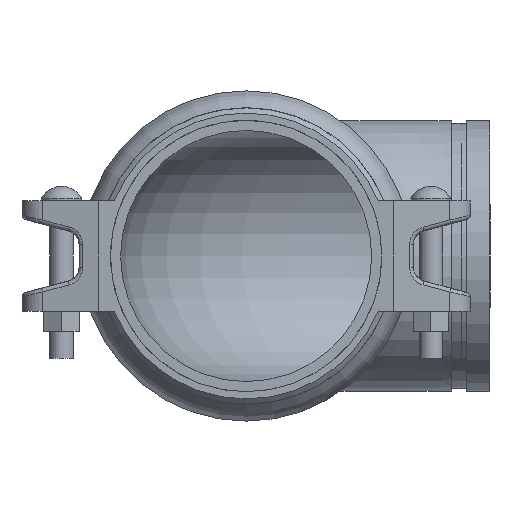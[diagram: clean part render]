
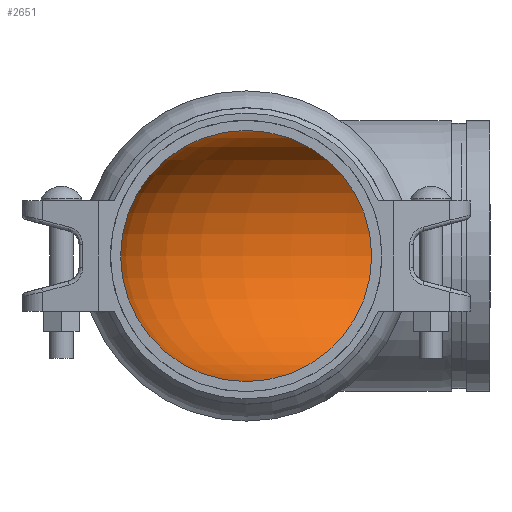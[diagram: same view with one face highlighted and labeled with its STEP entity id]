
A CAD part, left-side view. The second image highlights one B-rep face of the part: STEP entity #2651.
In plain terms, the highlighted toroidal (fillet/blend) face has major radius 173.838 mm and minor radius 101.359 mm.
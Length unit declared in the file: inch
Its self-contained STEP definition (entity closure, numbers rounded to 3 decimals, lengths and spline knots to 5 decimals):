
#102=TOROIDAL_SURFACE('',#2912,6.844,3.9905);
#570=FACE_OUTER_BOUND('',#723,.T.);
#723=EDGE_LOOP('',(#1695,#1696,#1697,#1698,#1699,#1700));
#897=CIRCLE('',#2909,3.9905);
#898=CIRCLE('',#2910,3.9905);
#900=CIRCLE('',#2913,3.9905);
#901=CIRCLE('',#2914,2.8535);
#902=CIRCLE('',#2915,3.9905);
#1039=VERTEX_POINT('',#4316);
#1040=VERTEX_POINT('',#4317);
#1042=VERTEX_POINT('',#4324);
#1043=VERTEX_POINT('',#4325);
#1297=EDGE_CURVE('',#1039,#1040,#897,.T.);
#1298=EDGE_CURVE('',#1040,#1039,#898,.T.);
#1301=EDGE_CURVE('',#1042,#1043,#900,.T.);
#1302=EDGE_CURVE('',#1043,#1040,#901,.T.);
#1303=EDGE_CURVE('',#1043,#1042,#902,.T.);
#1695=ORIENTED_EDGE('',*,*,#1301,.T.);
#1696=ORIENTED_EDGE('',*,*,#1302,.T.);
#1697=ORIENTED_EDGE('',*,*,#1297,.F.);
#1698=ORIENTED_EDGE('',*,*,#1298,.F.);
#1699=ORIENTED_EDGE('',*,*,#1302,.F.);
#1700=ORIENTED_EDGE('',*,*,#1303,.T.);
#2651=ADVANCED_FACE('',(#570),#102,.F.);
#2909=AXIS2_PLACEMENT_3D('',#4318,#3248,#3249);
#2910=AXIS2_PLACEMENT_3D('',#4319,#3250,#3251);
#2912=AXIS2_PLACEMENT_3D('',#4323,#3255,#3256);
#2913=AXIS2_PLACEMENT_3D('',#4326,#3257,#3258);
#2914=AXIS2_PLACEMENT_3D('',#4327,#3259,#3260);
#2915=AXIS2_PLACEMENT_3D('',#4328,#3261,#3262);
#3248=DIRECTION('center_axis',(0.,1.,0.));
#3249=DIRECTION('ref_axis',(1.,0.,0.));
#3250=DIRECTION('center_axis',(0.,1.,0.));
#3251=DIRECTION('ref_axis',(1.,0.,0.));
#3255=DIRECTION('center_axis',(0.,0.,1.));
#3256=DIRECTION('ref_axis',(1.,0.,0.));
#3257=DIRECTION('center_axis',(1.,0.,0.));
#3258=DIRECTION('ref_axis',(0.,-1.,0.));
#3259=DIRECTION('center_axis',(0.,0.,1.));
#3260=DIRECTION('ref_axis',(1.,0.,0.));
#3261=DIRECTION('center_axis',(1.,0.,0.));
#3262=DIRECTION('ref_axis',(0.,-1.,0.));
#4316=CARTESIAN_POINT('',(-3.9905,-6.844,0.));
#4317=CARTESIAN_POINT('',(3.9905,-6.844,0.));
#4318=CARTESIAN_POINT('Origin',(0.,-6.844,
0.));
#4319=CARTESIAN_POINT('Origin',(0.,-6.844,
0.));
#4323=CARTESIAN_POINT('Origin',(6.844,-6.844,0.));
#4324=CARTESIAN_POINT('',(6.844,3.9905,0.));
#4325=CARTESIAN_POINT('',(6.844,-3.9905,0.));
#4326=CARTESIAN_POINT('Origin',(6.844,0.,0.));
#4327=CARTESIAN_POINT('Origin',(6.844,-6.844,0.));
#4328=CARTESIAN_POINT('Origin',(6.844,0.,0.));
